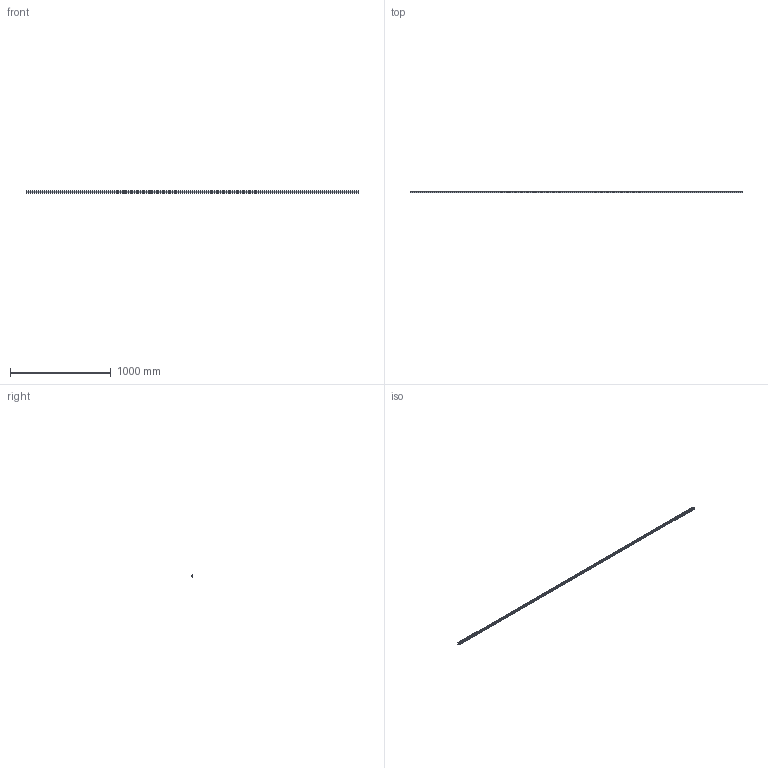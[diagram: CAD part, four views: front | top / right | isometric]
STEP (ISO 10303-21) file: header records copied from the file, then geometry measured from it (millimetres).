
FILE_DESCRIPTION (( 'STEP AP203' ), '1' );
FILE_NAME ('L1018.20R-3300.step', '2023-08-06T09:16:53', ( '' ), ( '' ), 'SwSTEP 2.0', 'SolidWorks 2019', '' );
FILE_SCHEMA (( 'CONFIG_CONTROL_DESIGN' ));
Length unit declared in the file: millimetre
Products named in the file (1): L1018.20R-3300
Bounding box: 3300 x 19.3 x 20 mm (x, y, z)
Volume: 1046523.3 mm3; surface area: 279144.1 mm2
Topology: 1 solids, 1 shells, 524 faces, 1181 edges, 659 vertices
Faces by surface type: cylinder 223, cone 220, plane 81
Entity records: 13868 total; most frequent: DIRECTION 2677, CARTESIAN_POINT 2255, ORIENTED_EDGE 2142, AXIS2_PLACEMENT_3D 1081, EDGE_CURVE 1071, VERTEX_POINT 659, EDGE_LOOP 634, CIRCLE 556
